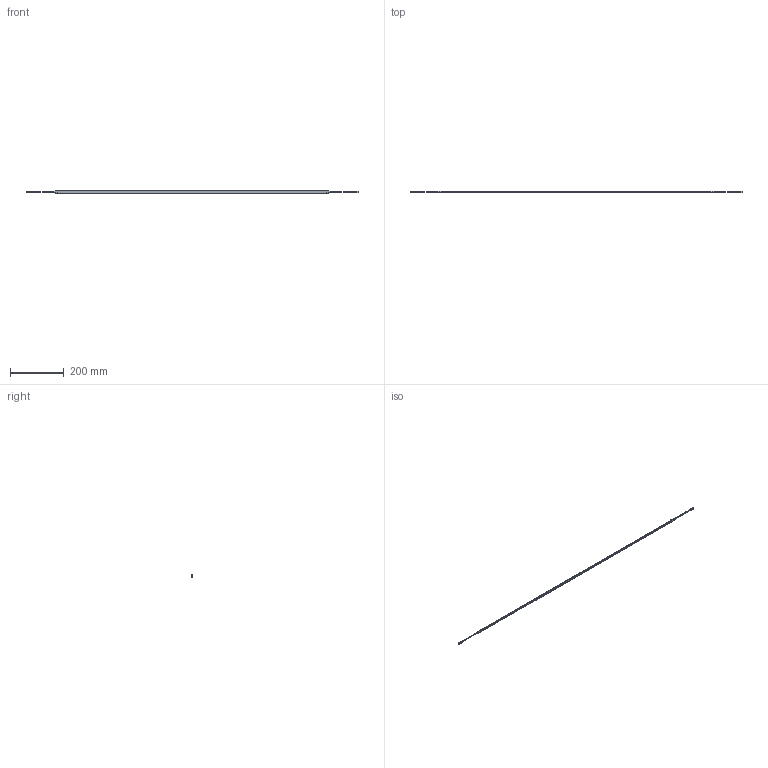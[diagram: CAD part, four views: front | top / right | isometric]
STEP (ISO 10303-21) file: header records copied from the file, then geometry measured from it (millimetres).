
FILE_DESCRIPTION (( 'STEP AP203' ), '1' );
FILE_NAME ('Polar X - 1 Meter Length.STEP', '2024-08-15T12:51:04', ( '' ), ( '' ), 'SwSTEP 2.0', 'SolidWorks 2020', '' );
FILE_SCHEMA (( 'CONFIG_CONTROL_DESIGN' ));
Length unit declared in the file: millimetre
Products named in the file (3): Polar X_1 Meter Length; Male JB4 Connector with +-; Polar X - 1 Meter Length
Assembly tree (3 placements, depth 2):
  Polar X - 1 Meter Length
    Polar X_1 Meter Length
    Male JB4 Connector with +-  x2
Bounding box: 1232.69 x 5.9 x 8.4 mm (x, y, z)
Volume: 11446 mm3; surface area: 22739 mm2
Topology: 3 solids, 3 shells, 2622 faces, 5408 edges, 3600 vertices
Faces by surface type: cylinder 1625, plane 977, torus 16, bspline 4
Entity records: 70422 total; most frequent: DIRECTION 13435, CARTESIAN_POINT 13242, ORIENTED_EDGE 10304, AXIS2_PLACEMENT_3D 5773, EDGE_CURVE 5152, VERTEX_POINT 3436, EDGE_LOOP 3334, CIRCLE 3247
